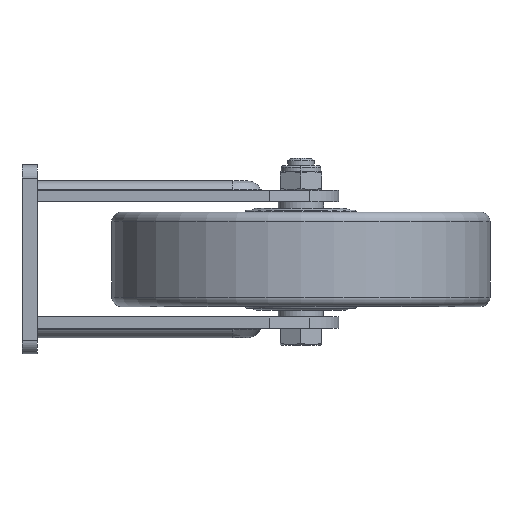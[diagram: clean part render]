
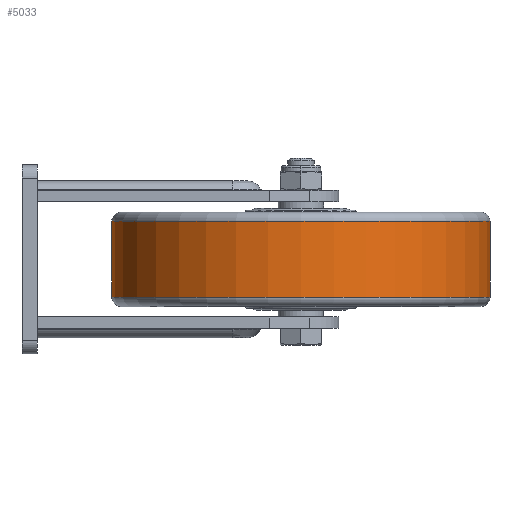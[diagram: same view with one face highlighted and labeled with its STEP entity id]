
A CAD part, left-side view. The second image highlights one B-rep face of the part: STEP entity #5033.
In plain terms, the highlighted cylindrical face has radius 100 mm (diameter 200 mm), a partial arc.
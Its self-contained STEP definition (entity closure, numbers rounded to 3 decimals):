
#2499=CARTESIAN_POINT('',(0.,0.,20.));
#2500=DIRECTION('',(0.,0.,1.));
#2501=DIRECTION('',(0.,-1.,0.));
#2502=AXIS2_PLACEMENT_3D('',#2499,#2500,#2501);
#2509=DIRECTION('',(0.,0.,-1.));
#2510=VECTOR('',#2509,40.);
#2511=CARTESIAN_POINT('',(0.,-100.,20.));
#2512=LINE('',#2511,#2510);
#2518=CARTESIAN_POINT('',(0.,0.,-20.));
#2519=DIRECTION('',(0.,0.,-1.));
#2520=DIRECTION('',(0.,1.,0.));
#2521=AXIS2_PLACEMENT_3D('',#2518,#2519,#2520);
#2553=DIRECTION('',(0.,0.,-1.));
#2554=VECTOR('',#2553,40.);
#2555=CARTESIAN_POINT('',(0.,100.,20.));
#2556=LINE('',#2555,#2554);
#4796=CARTESIAN_POINT('',(0.,100.,20.));
#4797=CARTESIAN_POINT('',(0.,100.,-20.));
#4798=VERTEX_POINT('',#4796);
#4799=VERTEX_POINT('',#4797);
#4815=CARTESIAN_POINT('',(0.,-100.,20.));
#4816=VERTEX_POINT('',#4815);
#4880=CARTESIAN_POINT('',(0.,-100.,-20.));
#4881=VERTEX_POINT('',#4880);
#5019=CARTESIAN_POINT('',(0.,0.,26.));
#5020=DIRECTION('',(0.,0.,1.));
#5021=DIRECTION('',(0.,-1.,0.));
#5022=AXIS2_PLACEMENT_3D('',#5019,#5020,#5021);
#5023=CYLINDRICAL_SURFACE('',#5022,100.);
#5025=ORIENTED_EDGE('',*,*,#5024,.T.);
#5027=ORIENTED_EDGE('',*,*,#5026,.F.);
#5028=ORIENTED_EDGE('',*,*,#5009,.T.);
#5030=ORIENTED_EDGE('',*,*,#5029,.T.);
#5031=EDGE_LOOP('',(#5025,#5027,#5028,#5030));
#5032=FACE_OUTER_BOUND('',#5031,.F.);
#2503=CIRCLE('',#2502,100.);
#2522=CIRCLE('',#2521,100.);
#5009=EDGE_CURVE('',#4816,#4798,#2503,.T.);
#5024=EDGE_CURVE('',#4799,#4881,#2522,.T.);
#5026=EDGE_CURVE('',#4816,#4881,#2512,.T.);
#5029=EDGE_CURVE('',#4798,#4799,#2556,.T.);
#5033=ADVANCED_FACE('',(#5032),#5023,.T.);
